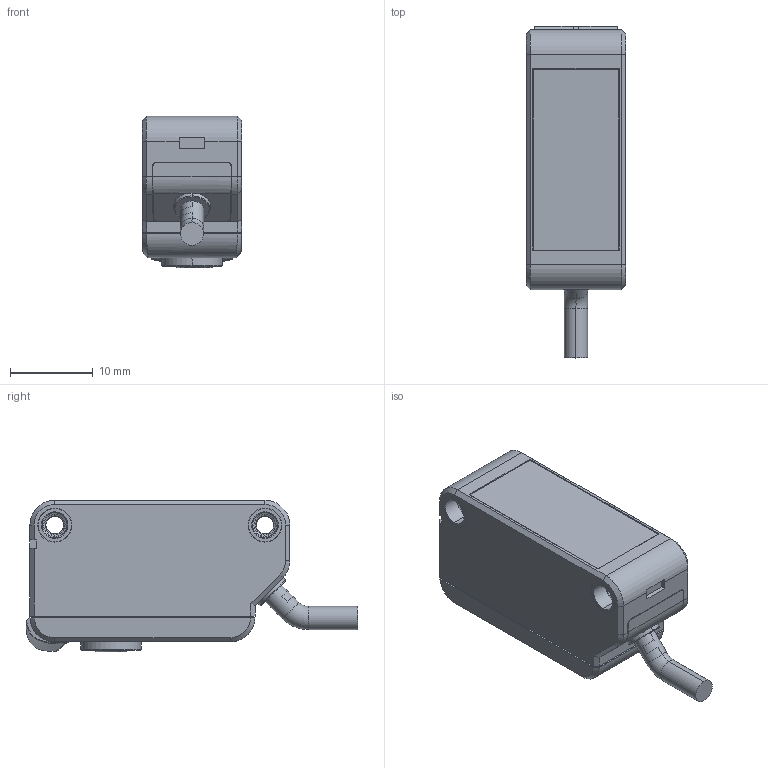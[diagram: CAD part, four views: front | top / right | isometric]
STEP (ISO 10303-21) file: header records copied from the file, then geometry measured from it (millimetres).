
FILE_DESCRIPTION((''),'2;1');
FILE_NAME('0-DUISHE-JIESHOU_A0001_ASM','2023-04-06T11:12:38',('HP'),(''),'CREO PARAMETRIC BY PTC INC, 2019224','CREO PARAMETRIC BY PTC INC, 2019224','');
FILE_SCHEMA(('CONFIG_CONTROL_DESIGN','SHAPE_APPEARANCE_LAYERS_GROUPS'));
Length unit declared in the file: millimetre
Products named in the file (9): 50-0140100-TP_93_1; 50-0100017-WIRE_268_1; 50-0140101-BP_284_1; 50-0140103-BP-BUTTON_262_1; 0001_28_1; M3X12_162_1; 0-DUISHE-JIESHOU_ASM_132_ASM_1_ASM; 0-DUISHE-JIESHOU_ASM_ASM_1_ASM; 0-DUISHE-JIESHOU_A0001_ASM
Assembly tree (9 placements, depth 4):
  0-DUISHE-JIESHOU_A0001_ASM
    0-DUISHE-JIESHOU_ASM_ASM_1_ASM
      0-DUISHE-JIESHOU_ASM_132_ASM_1_ASM
        50-0140100-TP_93_1
        50-0100017-WIRE_268_1
        50-0140101-BP_284_1
        50-0140103-BP-BUTTON_262_1
        0001_28_1
        M3X12_162_1  x2
Bounding box: 12 x 40.11 x 18.3 mm (x, y, z)
Volume: 5909 mm3; surface area: 4660.9 mm2
Topology: 7 solids, 7 shells, 520 faces, 1446 edges, 959 vertices
Faces by surface type: plane 275, cylinder 152, bspline 46, cone 20, torus 13, extrusion 8, sphere 6
Entity records: 21676 total; most frequent: CARTESIAN_POINT 8519, ORIENTED_EDGE 2150, DIRECTION 1880, EDGE_CURVE 1075, PRESENTATION_STYLE_ASSIGNMENT 1026, STYLED_ITEM 1022, CURVE_STYLE 1007, VERTEX_POINT 714
